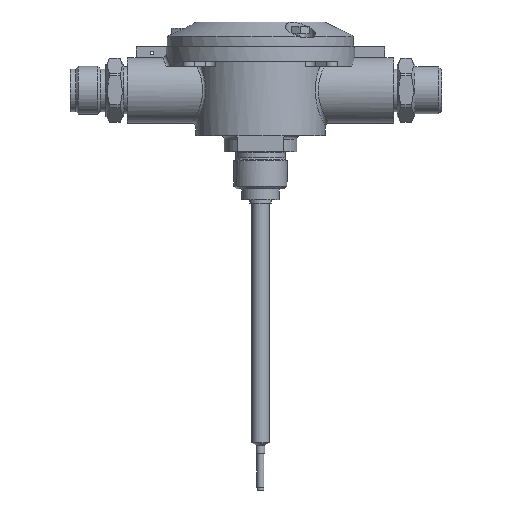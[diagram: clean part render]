
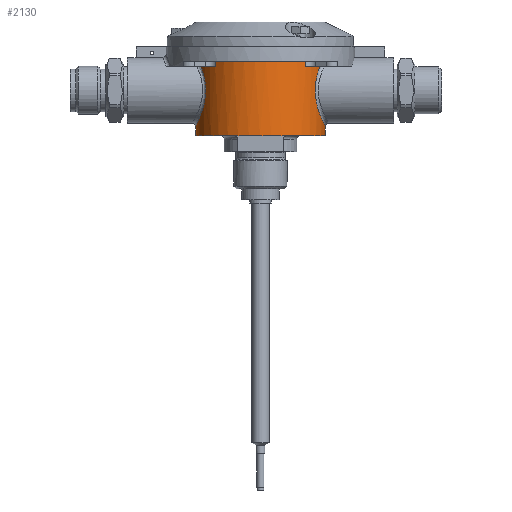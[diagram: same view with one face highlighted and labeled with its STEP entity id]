
A CAD part, front view. The second image highlights one B-rep face of the part: STEP entity #2130.
In plain terms, the highlighted cylindrical face has radius 36.5 mm (diameter 73 mm), a full revolution.
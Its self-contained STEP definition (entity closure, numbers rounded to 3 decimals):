
#2130=ADVANCED_FACE('',(#8840,#8842),#8844,.T.);
#8840=FACE_BOUND('',#8841,.T.);
#8841=EDGE_LOOP('',(#14470,#14471,#14472,#14473,#14474,#14475,#14476,#14477,#14478,
#14479,#14480,#14481,#14482,#14483,#14484,#14485,#14486,#14487));
#8842=FACE_BOUND('',#8843,.T.);
#8843=EDGE_LOOP('',(#14488,#14489,#14490));
#8844=CYLINDRICAL_SURFACE('',#8845,36.5);
#8845=AXIS2_PLACEMENT_3D('',#8846,#8847,#8848);
#8846=CARTESIAN_POINT('',(0.,0.,-8.));
#8847=DIRECTION('',(0.,0.,-1.));
#8848=DIRECTION('',(1.,0.,0.));
#14470=ORIENTED_EDGE('',*,*,#17462,.F.);
#14471=ORIENTED_EDGE('',*,*,#17468,.T.);
#14472=ORIENTED_EDGE('',*,*,#17655,.F.);
#14473=ORIENTED_EDGE('',*,*,#17656,.F.);
#14474=ORIENTED_EDGE('',*,*,#17657,.T.);
#14475=ORIENTED_EDGE('',*,*,#17450,.T.);
#14476=ORIENTED_EDGE('',*,*,#17436,.F.);
#14477=ORIENTED_EDGE('',*,*,#17439,.F.);
#14478=ORIENTED_EDGE('',*,*,#17438,.F.);
#14479=ORIENTED_EDGE('',*,*,#17652,.T.);
#14480=ORIENTED_EDGE('',*,*,#17658,.F.);
#14481=ORIENTED_EDGE('',*,*,#17659,.T.);
#14482=ORIENTED_EDGE('',*,*,#17660,.T.);
#14483=ORIENTED_EDGE('',*,*,#17661,.T.);
#14484=ORIENTED_EDGE('',*,*,#17662,.F.);
#14485=ORIENTED_EDGE('',*,*,#17663,.F.);
#14486=ORIENTED_EDGE('',*,*,#17653,.T.);
#14487=ORIENTED_EDGE('',*,*,#17458,.F.);
#14488=ORIENTED_EDGE('',*,*,#17664,.T.);
#14489=ORIENTED_EDGE('',*,*,#17665,.T.);
#14490=ORIENTED_EDGE('',*,*,#17666,.T.);
#17436=EDGE_CURVE('',#19315,#19309,#19317,.T.);
#17438=EDGE_CURVE('',#19319,#19321,#19322,.T.);
#17439=EDGE_CURVE('',#19321,#19315,#19323,.T.);
#17450=EDGE_CURVE('',#19340,#19309,#19341,.T.);
#17458=EDGE_CURVE('',#19353,#19355,#19356,.T.);
#17462=EDGE_CURVE('',#19360,#19353,#19363,.T.);
#17468=EDGE_CURVE('',#19360,#19370,#19372,.T.);
#17652=EDGE_CURVE('',#19319,#19692,#19694,.T.);
#17653=EDGE_CURVE('',#19695,#19355,#19696,.T.);
#17655=EDGE_CURVE('',#19698,#19370,#19699,.T.);
#17656=EDGE_CURVE('',#19700,#19698,#19701,.T.);
#17657=EDGE_CURVE('',#19700,#19340,#19702,.T.);
#17658=EDGE_CURVE('',#19703,#19692,#19704,.T.);
#17659=EDGE_CURVE('',#19703,#19705,#19706,.T.);
#17660=EDGE_CURVE('',#19705,#19707,#19708,.T.);
#17661=EDGE_CURVE('',#19707,#19709,#19710,.T.);
#17662=EDGE_CURVE('',#19711,#19709,#19712,.T.);
#17663=EDGE_CURVE('',#19695,#19711,#19713,.T.);
#17664=EDGE_CURVE('',#19714,#19715,#19716,.T.);
#17665=EDGE_CURVE('',#19715,#19717,#19718,.T.);
#17666=EDGE_CURVE('',#19717,#19714,#19719,.T.);
#19309=VERTEX_POINT('',#23848);
#19315=VERTEX_POINT('',#23892);
#19317=B_SPLINE_CURVE_WITH_KNOTS('',3,
(#23897,#23898,#23899,#23900,#23901,#23902,#23903,#23904,#23905,#23906,#23907),
.UNSPECIFIED.,.F.,.F.,
(4,1,1,1,1,1,1,1,4),
(0.,0.149,0.298,0.522,0.597,0.671,
0.746,0.895,1.),
.UNSPECIFIED.);
#19319=VERTEX_POINT('',#23909);
#19321=VERTEX_POINT('',#23914);
#19322=CIRCLE('',#23915,36.5);
#19323=CIRCLE('',#23919,36.5);
#19340=VERTEX_POINT('',#23976);
#19341=(BOUNDED_CURVE()B_SPLINE_CURVE(3,
(#23977,#23978,#23979,#23980),
.UNSPECIFIED.,.F.,.F.)B_SPLINE_CURVE_WITH_KNOTS((4,4),
(0.,1.),
.UNSPECIFIED.)CURVE()GEOMETRIC_REPRESENTATION_ITEM()RATIONAL_B_SPLINE_CURVE((1.,
0.988,0.988,1.))REPRESENTATION_ITEM(''));
#19353=VERTEX_POINT('',#24022);
#19355=VERTEX_POINT('',#24027);
#19356=CIRCLE('',#24028,36.5);
#19360=VERTEX_POINT('',#24041);
#19363=B_SPLINE_CURVE_WITH_KNOTS('',3,
(#24053,#24054,#24055,#24056,#24057,#24058,#24059,#24060,#24061,#24062),
.UNSPECIFIED.,.F.,.F.,
(4,1,1,1,1,1,1,4),
(0.,0.105,0.254,0.403,0.478,0.702,
0.851,1.),
.UNSPECIFIED.);
#19370=VERTEX_POINT('',#24085);
#19372=CIRCLE('',#24090,36.5);
#19692=VERTEX_POINT('',#24947);
#19694=LINE('',#24951,#24952);
#19695=VERTEX_POINT('',#24954);
#19696=LINE('',#24955,#24956);
#19698=VERTEX_POINT('',#24961);
#19699=LINE('',#24962,#24963);
#19700=VERTEX_POINT('',#24965);
#19701=CIRCLE('',#24966,36.5);
#19702=LINE('',#24970,#24971);
#19703=VERTEX_POINT('',#24973);
#19704=CIRCLE('',#24974,36.5);
#19705=VERTEX_POINT('',#24978);
#19706=LINE('',#24979,#24980);
#19707=VERTEX_POINT('',#24982);
#19708=CIRCLE('',#24983,36.5);
#19709=VERTEX_POINT('',#24987);
#19710=CIRCLE('',#24988,36.5);
#19711=VERTEX_POINT('',#24992);
#19712=LINE('',#24993,#24994);
#19713=CIRCLE('',#24996,36.5);
#19714=VERTEX_POINT('',#25000);
#19715=VERTEX_POINT('',#25001);
#19716=CIRCLE('',#25002,36.5);
#19717=VERTEX_POINT('',#25006);
#19718=CIRCLE('',#25007,36.5);
#19719=CIRCLE('',#25011,36.5);
#23848=CARTESIAN_POINT('',(-33.441,-14.626,-11.));
#23892=CARTESIAN_POINT('',(-36.5,0.,-45.));
#23897=CARTESIAN_POINT('',(-36.5,0.,-45.));
#23898=CARTESIAN_POINT('',(-36.5,-2.244,-45.));
#23899=CARTESIAN_POINT('',(-36.062,-6.772,-44.153));
#23900=CARTESIAN_POINT('',(-34.145,-13.509,-40.065));
#23901=CARTESIAN_POINT('',(-32.084,-17.477,-34.421));
#23902=CARTESIAN_POINT('',(-31.101,-19.109,-28.762));
#23903=CARTESIAN_POINT('',(-30.841,-19.521,-25.228));
#23904=CARTESIAN_POINT('',(-30.991,-19.284,-20.422));
#23905=CARTESIAN_POINT('',(-31.944,-17.743,-15.46));
#23906=CARTESIAN_POINT('',(-32.999,-15.634,-12.216));
#23907=CARTESIAN_POINT('',(-33.441,-14.626,-11.));
#23909=CARTESIAN_POINT('',(-25.809,25.809,-45.));
#23914=CARTESIAN_POINT('',(-33.722,13.968,-45.));
#23915=AXIS2_PLACEMENT_3D('',#23916,#23917,#23918);
#23916=CARTESIAN_POINT('',(0.,0.,-45.));
#23917=DIRECTION('',(0.,0.,1.));
#23918=DIRECTION('',(-0.707,0.707,0.));
#23919=AXIS2_PLACEMENT_3D('',#23920,#23921,#23922);
#23920=CARTESIAN_POINT('',(0.,0.,-45.));
#23921=DIRECTION('',(0.,0.,1.));
#23922=DIRECTION('',(-0.924,0.383,0.));
#23976=CARTESIAN_POINT('',(-25.507,-26.109,-11.));
#23977=CARTESIAN_POINT('',(-25.507,-26.109,-11.));
#23978=CARTESIAN_POINT('',(-28.876,-22.817,-11.));
#23979=CARTESIAN_POINT('',(-31.554,-18.942,-11.));
#23980=CARTESIAN_POINT('',(-33.441,-14.626,-11.));
#24022=CARTESIAN_POINT('',(36.5,0.,-45.));
#24027=CARTESIAN_POINT('',(25.809,25.809,-45.));
#24028=AXIS2_PLACEMENT_3D('',#24029,#24030,#24031);
#24029=CARTESIAN_POINT('',(0.,0.,-45.));
#24030=DIRECTION('',(0.,0.,1.));
#24031=DIRECTION('',(1.,0.,0.));
#24041=CARTESIAN_POINT('',(33.442,-14.626,-11.));
#24053=CARTESIAN_POINT('',(33.442,-14.626,-11.));
#24054=CARTESIAN_POINT('',(33.001,-15.633,-12.212));
#24055=CARTESIAN_POINT('',(31.949,-17.739,-15.447));
#24056=CARTESIAN_POINT('',(30.767,-19.639,-21.565));
#24057=CARTESIAN_POINT('',(30.898,-19.439,-27.647));
#24058=CARTESIAN_POINT('',(32.086,-17.475,-34.416));
#24059=CARTESIAN_POINT('',(34.143,-13.51,-40.07));
#24060=CARTESIAN_POINT('',(36.063,-6.771,-44.151));
#24061=CARTESIAN_POINT('',(36.5,-2.244,-45.));
#24062=CARTESIAN_POINT('',(36.5,0.,-45.));
#24085=CARTESIAN_POINT('',(25.507,-26.109,-11.));
#24090=AXIS2_PLACEMENT_3D('',#24091,#24092,#24093);
#24091=CARTESIAN_POINT('',(0.,0.,-11.));
#24092=DIRECTION('',(0.,0.,-1.));
#24093=DIRECTION('',(0.916,-0.401,0.));
#24947=CARTESIAN_POINT('',(-25.809,25.809,-8.));
#24951=CARTESIAN_POINT('',(-25.809,25.809,-45.));
#24952=VECTOR('',#24953,1.);
#24953=DIRECTION('',(0.,0.,1.));
#24954=CARTESIAN_POINT('',(25.809,25.809,-8.));
#24955=CARTESIAN_POINT('',(25.809,25.809,-8.));
#24956=VECTOR('',#24957,1.);
#24957=DIRECTION('',(0.,0.,-1.));
#24961=CARTESIAN_POINT('',(25.507,-26.109,-8.));
#24962=CARTESIAN_POINT('',(25.507,-26.109,-8.));
#24963=VECTOR('',#24964,1.);
#24964=DIRECTION('',(0.,0.,-1.));
#24965=CARTESIAN_POINT('',(-25.507,-26.109,-8.));
#24966=AXIS2_PLACEMENT_3D('',#24967,#24968,#24969);
#24967=CARTESIAN_POINT('',(0.,0.,-8.));
#24968=DIRECTION('',(0.,0.,1.));
#24969=DIRECTION('',(-0.699,-0.715,0.));
#24970=CARTESIAN_POINT('',(-25.507,-26.109,-8.));
#24971=VECTOR('',#24972,1.);
#24972=DIRECTION('',(0.,0.,-1.));
#24973=CARTESIAN_POINT('',(-9.914,35.128,-8.));
#24974=AXIS2_PLACEMENT_3D('',#24975,#24976,#24977);
#24975=CARTESIAN_POINT('',(0.,0.,-8.));
#24976=DIRECTION('',(0.,0.,1.));
#24977=DIRECTION('',(-0.272,0.962,0.));
#24978=CARTESIAN_POINT('',(-9.914,35.128,-11.));
#24979=CARTESIAN_POINT('',(-9.914,35.128,-8.));
#24980=VECTOR('',#24981,1.);
#24981=DIRECTION('',(0.,0.,-1.));
#24982=CARTESIAN_POINT('',(7.121,35.799,-11.));
#24983=AXIS2_PLACEMENT_3D('',#24984,#24985,#24986);
#24984=CARTESIAN_POINT('',(0.,0.,-11.));
#24985=DIRECTION('',(0.,0.,-1.));
#24986=DIRECTION('',(-0.272,0.962,0.));
#24987=CARTESIAN_POINT('',(9.914,35.128,-11.));
#24988=AXIS2_PLACEMENT_3D('',#24989,#24990,#24991);
#24989=CARTESIAN_POINT('',(0.,0.,-11.));
#24990=DIRECTION('',(0.,0.,-1.));
#24991=DIRECTION('',(0.195,0.981,0.));
#24992=CARTESIAN_POINT('',(9.914,35.128,-8.));
#24993=CARTESIAN_POINT('',(9.914,35.128,-8.));
#24994=VECTOR('',#24995,1.);
#24995=DIRECTION('',(0.,0.,-1.));
#24996=AXIS2_PLACEMENT_3D('',#24997,#24998,#24999);
#24997=CARTESIAN_POINT('',(0.,0.,-8.));
#24998=DIRECTION('',(0.,-0.,1.));
#24999=DIRECTION('',(0.707,0.707,0.));
#25000=CARTESIAN_POINT('',(7.121,35.799,-50.));
#25001=CARTESIAN_POINT('',(-33.722,13.968,-50.));
#25002=AXIS2_PLACEMENT_3D('',#25003,#25004,#25005);
#25003=CARTESIAN_POINT('',(0.,0.,-50.));
#25004=DIRECTION('',(0.,-0.,1.));
#25005=DIRECTION('',(0.195,0.981,0.));
#25006=CARTESIAN_POINT('',(-36.5,0.,-50.));
#25007=AXIS2_PLACEMENT_3D('',#25008,#25009,#25010);
#25008=CARTESIAN_POINT('',(0.,0.,-50.));
#25009=DIRECTION('',(0.,0.,1.));
#25010=DIRECTION('',(-0.924,0.383,0.));
#25011=AXIS2_PLACEMENT_3D('',#25012,#25013,#25014);
#25012=CARTESIAN_POINT('',(0.,0.,-50.));
#25013=DIRECTION('',(0.,-0.,1.));
#25014=DIRECTION('',(-1.,0.,0.));
